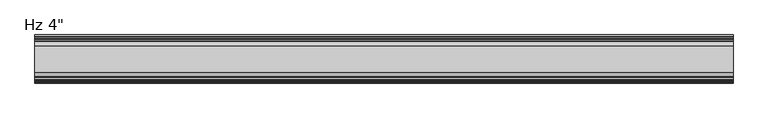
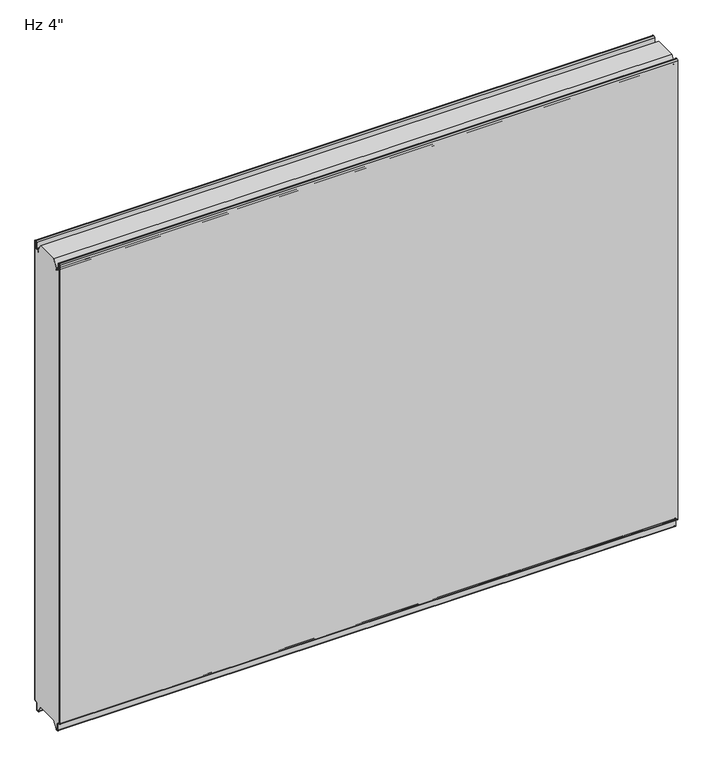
"""IFC4 building model written with IfcOpenShell, lengths in millimetres: plate geometry."""

from ifc_helpers import new_model, si_unit, frame, origin, place, context, project, spatial, polyline, circle_curve, source, transform, mapped, element, save
from ifc_brep_helpers import plane_surface, cylinder_surface, revolved_surface, advanced_brep


def plate_175a63a8(model_context):
    return source(origin(), model_context, "Body", "AdvancedBrep", [
        advanced_brep(
        [(-730.0, -98.6227194, 3.8499499), (-730.0, -100.5999935, 5.8272239), (-730.0, -100.6, 1150.8100652), (-730.0, -98.6227315, 1152.7873337), (-730.0, -97.5806329, 1152.7873337), (-730.0, -95.6033643, 1150.8100652), (-730.0, -95.6033643, 1136.6216802), (-730.0, -93.0154878, 1134.0338036), (-730.0, -88.6950697, 1134.0338036), (-730.0, -88.1060762, 1133.4253365), (-730.0, -88.1060762, 1131.0482432), (-730.0, -87.1066023, 1131.0482432), (-730.0, -87.1066023, 1136.4905123), (-730.0, -77.8490865, 1152.525), (-730.0, -23.7509179, 1152.525), (-730.0, -14.4933977, 1136.4905123), (-730.0, -14.4933977, 1131.0482432), (-730.0, -13.4939238, 1131.0482432), (-730.0, -13.4939238, 1133.4253365), (-730.0, -12.9049303, 1134.0338036), (-730.0, -8.5845122, 1134.0338036), (-730.0, -5.9966357, 1136.6216802), (-730.0, -5.9966357, 1150.8100652), (-730.0, -4.0193671, 1152.7873337), (-730.0, -2.9772685, 1152.7873337), (-730.0, -1.0, 1150.8100652), (-730.0, -1.0, 5.8272239), (-730.0, -2.9772806, 3.8499499), (-730.0, -5.2691705, 3.8499499), (-730.0, -9.2464377, -0.1273173), (-730.0, -9.2464377, -15.7237417), (-730.0, -9.8343146, -16.3116186), (-730.0, -12.9058635, -16.3116186), (-730.0, -13.4937402, -15.723742), (-730.0, -13.4937402, -13.3687064), (-730.0, -14.4937402, -13.3687064), (-730.0, -14.4937402, -15.6582851), (-730.0, -23.7509135, 0.0), (-730.0, -77.8490865, 0.0), (-730.0, -87.1062598, -15.6582851), (-730.0, -87.1062598, -13.3687064), (-730.0, -88.1062598, -13.3687064), (-730.0, -88.1062598, -15.723742), (-730.0, -88.6941365, -16.3116186), (-730.0, -91.7656854, -16.3116186), (-730.0, -92.3535623, -15.7237417), (-730.0, -92.3535623, -0.1273173), (-730.0, -96.3308295, 3.8499499), (730.0, -98.6227194, 3.8499499), (730.0, -96.3308295, 3.8499499), (730.0, -92.3535623, -0.1273173), (730.0, -92.3535623, -15.7237417), (730.0, -91.7656854, -16.3116186), (730.0, -88.6941365, -16.3116186), (730.0, -88.1062598, -15.723742), (730.0, -88.1062598, -13.3687064), (730.0, -87.1062598, -13.3687064), (730.0, -87.1062598, -15.6582851), (730.0, -77.8490865, 0.0), (730.0, -23.7509179, 0.0), (730.0, -14.4937402, -15.6582851), (730.0, -14.4937402, -13.3687064), (730.0, -13.4937402, -13.3687064), (730.0, -13.4937402, -15.723742), (730.0, -12.9058635, -16.3116186), (730.0, -9.8343146, -16.3116186), (730.0, -9.2464377, -15.7237417), (730.0, -9.2464377, -0.1273173), (730.0, -5.2691705, 3.8499499), (730.0, -2.9772806, 3.8499499), (730.0, -1.0000065, 5.8272239), (730.0, -1.0, 1150.8100652), (730.0, -2.9772685, 1152.7873337), (730.0, -4.0193671, 1152.7873337), (730.0, -5.9966357, 1150.8100652), (730.0, -5.9966357, 1136.6216802), (730.0, -8.5845122, 1134.0338036), (730.0, -12.9049303, 1134.0338036), (730.0, -13.4939238, 1133.4253365), (730.0, -13.4939238, 1131.0482432), (730.0, -14.4933977, 1131.0482432), (730.0, -14.4933977, 1136.4905123), (730.0, -23.7509135, 1152.525), (730.0, -77.8490865, 1152.525), (730.0, -87.1066023, 1136.4905123), (730.0, -87.1066023, 1131.0482432), (730.0, -88.1060762, 1131.0482432), (730.0, -88.1060762, 1133.4253365), (730.0, -88.6950697, 1134.0338036), (730.0, -93.0154878, 1134.0338036), (730.0, -95.6033643, 1136.6216802), (730.0, -95.6033643, 1150.8100652), (730.0, -97.5806329, 1152.7873337), (730.0, -98.6227315, 1152.7873337), (730.0, -100.6, 1150.8100652), (730.0, -100.6, 5.8272239)],
        [
            (0, 1, circle_curve(frame((-730.0, -98.6227194, 5.8272239), z_axis=(-1.0, 0.0, 0.0), x_axis=(0.0, 0.0, -1.0)), 1.977274)),
            (1, 2),
            (2, 3, circle_curve(frame((-730.0, -98.6227315, 1150.8100652), z_axis=(-1.0, 0.0, 0.0), x_axis=(0.0, 0.0, -1.0)), 1.9772685)),
            (3, 4),
            (4, 5, circle_curve(frame((-730.0, -97.5806329, 1150.8100652), z_axis=(-1.0, 0.0, 0.0), x_axis=(0.0, 0.0, -1.0)), 1.9772685)),
            (5, 6),
            (6, 7, circle_curve(frame((-730.0, -93.0154878, 1136.6216802), z_axis=(1.0, 0.0, 0.0), x_axis=(0.0, 0.0, -1.0)), 2.5878765)),
            (7, 8),
            (8, 9, circle_curve(frame((-730.0, -88.6950697, 1133.4444985), z_axis=(-1.0, 0.0, 0.0), x_axis=(0.0, 0.0, -1.0)), 0.5893051)),
            (9, 10),
            (10, 11),
            (11, 12),
            (12, 13),
            (13, 14),
            (14, 15),
            (15, 16),
            (16, 17),
            (17, 18),
            (18, 19, circle_curve(frame((-730.0, -12.9049303, 1133.4444985), z_axis=(-1.0, 0.0, 0.0), x_axis=(0.0, 1.0, 0.0)), 0.5893051)),
            (19, 20),
            (20, 21, circle_curve(frame((-730.0, -8.5845122, 1136.6216802), z_axis=(1.0, 0.0, 0.0), x_axis=(0.0, 1.0, 0.0)), 2.5878765)),
            (21, 22),
            (22, 23, circle_curve(frame((-730.0, -4.0193671, 1150.8100652), z_axis=(-1.0, 0.0, 0.0), x_axis=(0.0, 1.0, 0.0)), 1.9772685)),
            (23, 24),
            (24, 25, circle_curve(frame((-730.0, -2.9772685, 1150.8100652), z_axis=(-1.0, 0.0, 0.0), x_axis=(0.0, 1.0, 0.0)), 1.9772685)),
            (25, 26),
            (26, 27, circle_curve(frame((-730.0, -2.9772806, 5.8272239), z_axis=(-1.0, 0.0, 0.0), x_axis=(0.0, 1.0, 0.0)), 1.977274)),
            (27, 28),
            (28, 29, circle_curve(frame((-730.0, -5.2691705, -0.1273173), z_axis=(1.0, 0.0, 0.0), x_axis=(0.0, 1.0, 0.0)), 3.9772671)),
            (29, 30),
            (30, 31, circle_curve(frame((-730.0, -9.8343146, -15.7237417), z_axis=(-1.0, 0.0, 0.0), x_axis=(0.0, 1.0, 0.0)), 0.5878769)),
            (31, 32),
            (32, 33, circle_curve(frame((-730.0, -12.9058635, -15.723742), z_axis=(-1.0, 0.0, 0.0), x_axis=(0.0, 1.0, 0.0)), 0.5878766)),
            (33, 34),
            (34, 35),
            (35, 36),
            (36, 37),
            (37, 38),
            (38, 39),
            (39, 40),
            (40, 41),
            (41, 42),
            (42, 43, circle_curve(frame((-730.0, -88.6941365, -15.723742), z_axis=(-1.0, 0.0, 0.0), x_axis=(0.0, 0.0, -1.0)), 0.5878766)),
            (43, 44),
            (44, 45, circle_curve(frame((-730.0, -91.7656854, -15.7237417), z_axis=(-1.0, 0.0, 0.0), x_axis=(0.0, 0.0, -1.0)), 0.5878769)),
            (45, 46),
            (46, 47, circle_curve(frame((-730.0, -96.3308295, -0.1273173), z_axis=(1.0, 0.0, 0.0), x_axis=(0.0, 0.0, -1.0)), 3.9772671)),
            (47, 0),
            (48, 49),
            (49, 50, circle_curve(frame((730.0, -96.3308295, -0.1273173), z_axis=(-1.0, 0.0, 0.0), x_axis=(0.0, 0.0, -1.0)), 3.9772671)),
            (50, 51),
            (51, 52, circle_curve(frame((730.0, -91.7656854, -15.7237417), z_axis=(1.0, 0.0, 0.0), x_axis=(0.0, 0.0, -1.0)), 0.5878769)),
            (52, 53),
            (53, 54, circle_curve(frame((730.0, -88.6941365, -15.723742), z_axis=(1.0, 0.0, 0.0), x_axis=(0.0, 0.0, -1.0)), 0.5878766)),
            (54, 55),
            (55, 56),
            (56, 57),
            (57, 58),
            (58, 59),
            (59, 60),
            (60, 61),
            (61, 62),
            (62, 63),
            (63, 64, circle_curve(frame((730.0, -12.9058635, -15.723742), z_axis=(1.0, 0.0, 0.0), x_axis=(0.0, 1.0, 0.0)), 0.5878766)),
            (64, 65),
            (65, 66, circle_curve(frame((730.0, -9.8343146, -15.7237417), z_axis=(1.0, 0.0, 0.0), x_axis=(0.0, 1.0, 0.0)), 0.5878769)),
            (66, 67),
            (67, 68, circle_curve(frame((730.0, -5.2691705, -0.1273173), z_axis=(-1.0, 0.0, 0.0), x_axis=(0.0, 1.0, 0.0)), 3.9772671)),
            (68, 69),
            (69, 70, circle_curve(frame((730.0, -2.9772806, 5.8272239), z_axis=(1.0, 0.0, 0.0), x_axis=(0.0, 1.0, 0.0)), 1.977274)),
            (70, 71),
            (71, 72, circle_curve(frame((730.0, -2.9772685, 1150.8100652), z_axis=(1.0, 0.0, 0.0), x_axis=(0.0, 1.0, 0.0)), 1.9772685)),
            (72, 73),
            (73, 74, circle_curve(frame((730.0, -4.0193671, 1150.8100652), z_axis=(1.0, 0.0, 0.0), x_axis=(0.0, 1.0, 0.0)), 1.9772685)),
            (74, 75),
            (75, 76, circle_curve(frame((730.0, -8.5845122, 1136.6216802), z_axis=(-1.0, 0.0, 0.0), x_axis=(0.0, 1.0, 0.0)), 2.5878765)),
            (76, 77),
            (77, 78, circle_curve(frame((730.0, -12.9049303, 1133.4444985), z_axis=(1.0, 0.0, 0.0), x_axis=(0.0, 1.0, 0.0)), 0.5893051)),
            (78, 79),
            (79, 80),
            (80, 81),
            (81, 82),
            (82, 83),
            (83, 84),
            (84, 85),
            (85, 86),
            (86, 87),
            (87, 88, circle_curve(frame((730.0, -88.6950697, 1133.4444985), z_axis=(1.0, 0.0, 0.0), x_axis=(0.0, 0.0, -1.0)), 0.5893051)),
            (88, 89),
            (89, 90, circle_curve(frame((730.0, -93.0154878, 1136.6216802), z_axis=(-1.0, 0.0, 0.0), x_axis=(0.0, 0.0, -1.0)), 2.5878765)),
            (90, 91),
            (91, 92, circle_curve(frame((730.0, -97.5806329, 1150.8100652), z_axis=(1.0, 0.0, 0.0), x_axis=(0.0, 0.0, -1.0)), 1.9772685)),
            (92, 93),
            (93, 94, circle_curve(frame((730.0, -98.6227315, 1150.8100652), z_axis=(1.0, 0.0, 0.0), x_axis=(0.0, 0.0, -1.0)), 1.9772685)),
            (94, 95),
            (95, 48, circle_curve(frame((730.0, -98.6227194, 5.8272239), z_axis=(1.0, 0.0, 0.0), x_axis=(0.0, 0.0, -1.0)), 1.977274)),
            (13, 83),
            (82, 14),
            (58, 38),
            (37, 59),
            (47, 49),
            (48, 0),
            (46, 50),
            (45, 51),
            (44, 52),
            (43, 53),
            (42, 54),
            (41, 55),
            (40, 56),
            (39, 57),
            (12, 84),
            (11, 85),
            (10, 86),
            (9, 87),
            (8, 88),
            (7, 89),
            (6, 90),
            (5, 91),
            (4, 92),
            (3, 93),
            (2, 94),
            (1, 95),
            (26, 70),
            (69, 27),
            (25, 71),
            (24, 72),
            (23, 73),
            (22, 74),
            (21, 75),
            (20, 76),
            (19, 77),
            (18, 78),
            (17, 79),
            (16, 80),
            (15, 81),
            (36, 60),
            (35, 61),
            (34, 62),
            (33, 63),
            (32, 64),
            (31, 65),
            (30, 66),
            (29, 67),
            (28, 68),
        ],
        [
            plane_surface(frame((-730.0, -100.6, 576.2625), z_axis=(-1.0, 0.0, 0.0), x_axis=(0.0, -1.0, 0.0))),
            plane_surface(frame((730.0, -100.6, 576.2625), z_axis=(1.0, 0.0, 0.0), x_axis=(0.0, -1.0, 0.0))),
            plane_surface(frame((-730.0, -77.8490865, 1152.525), z_axis=(0.0, 0.0, 1.0), x_axis=(-1.0, 0.0, 0.0))),
            plane_surface(frame((-730.0, -77.8490865, 0.0), z_axis=(0.0, 0.0, -1.0), x_axis=(1.0, 0.0, 0.0))),
            plane_surface(frame((-730.0, -98.6227194, 3.8499499), z_axis=(0.0, 0.0, -1.0), x_axis=(1.0, 0.0, 0.0))),
            revolved_surface(polyline([(730.0, -96.3308295, -4.1045844), (-730.0, -96.3308295, -4.1045844)]), (-730.0, -96.3308295, -0.1273173), (1.0, 0.0, 0.0)),
            plane_surface(frame((-730.0, -92.3535623, -0.1273173), z_axis=(0.0, -1.0, 0.0), x_axis=(1.0, 0.0, 0.0))),
            cylinder_surface(frame((-730.0, -91.7656854, -15.7237417), z_axis=(-1.0, 0.0, 0.0), x_axis=(0.0, 0.0, -1.0)), 0.5878769),
            plane_surface(frame((-730.0, -91.7656854, -16.3116186), z_axis=(0.0, 0.0, -1.0), x_axis=(1.0, 0.0, 0.0))),
            cylinder_surface(frame((-730.0, -88.6941365, -15.723742), z_axis=(-1.0, 0.0, 0.0), x_axis=(0.0, 0.0, -1.0)), 0.5878766),
            plane_surface(frame((-730.0, -88.1062598, -15.723742), z_axis=(0.0, 1.0, 0.0), x_axis=(1.0, 0.0, 0.0))),
            plane_surface(frame((-730.0, -88.1062598, -13.3687064), z_axis=(0.0, 0.0, -1.0), x_axis=(1.0, 0.0, 0.0))),
            plane_surface(frame((-730.0, -87.1062598, -13.3687064), z_axis=(0.0, -1.0, 0.0), x_axis=(1.0, 0.0, 0.0))),
            plane_surface(frame((-730.0, -87.1062598, -15.6582851), z_axis=(0.0, 0.8608169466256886, -0.5089147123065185), x_axis=(1.0, 0.0, 0.0))),
            plane_surface(frame((-730.0, -77.8490865, 1152.525), z_axis=(0.0, -0.8660254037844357, 0.5000000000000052), x_axis=(1.0, 0.0, 0.0))),
            plane_surface(frame((-730.0, -87.1066023, 1136.4905123), z_axis=(0.0, -1.0, 0.0), x_axis=(1.0, 0.0, 0.0))),
            plane_surface(frame((-730.0, -87.1066023, 1131.0482432), z_axis=(0.0, 0.0, 1.0), x_axis=(1.0, 0.0, 0.0))),
            plane_surface(frame((-730.0, -88.1060762, 1131.0482432), z_axis=(0.0, 1.0, 0.0), x_axis=(1.0, 0.0, 0.0))),
            cylinder_surface(frame((-730.0, -88.6950697, 1133.4444985), z_axis=(-1.0, 0.0, 0.0), x_axis=(0.0, 0.0, -1.0)), 0.5893051),
            plane_surface(frame((-730.0, -88.6950697, 1134.0338036), z_axis=(0.0, 0.0, 1.0), x_axis=(1.0, 0.0, 0.0))),
            revolved_surface(polyline([(730.0, -93.0154878, 1134.0338037), (-730.0, -93.0154878, 1134.0338037)]), (-730.0, -93.0154878, 1136.6216802), (1.0, 0.0, 0.0)),
            plane_surface(frame((-730.0, -95.6033643, 1136.6216802), z_axis=(0.0, 1.0, 0.0), x_axis=(1.0, 0.0, 0.0))),
            cylinder_surface(frame((-730.0, -97.5806329, 1150.8100652), z_axis=(-1.0, 0.0, 0.0), x_axis=(0.0, 0.0, -1.0)), 1.9772685),
            plane_surface(frame((-730.0, -97.5806329, 1152.7873337), z_axis=(0.0, 0.0, 1.0), x_axis=(1.0, 0.0, 0.0))),
            cylinder_surface(frame((-730.0, -98.6227315, 1150.8100652), z_axis=(-1.0, 0.0, 0.0), x_axis=(0.0, 0.0, -1.0)), 1.9772685),
            plane_surface(frame((-730.0, -100.6, 1150.8100652), z_axis=(0.0, -1.0, 0.0), x_axis=(1.0, 0.0, 0.0))),
            cylinder_surface(frame((-730.0, -98.6227194, 5.8272239), z_axis=(-1.0, 0.0, 0.0), x_axis=(0.0, 0.0, -1.0)), 1.977274),
            cylinder_surface(frame((-730.0, -2.9772806, 5.8272239), z_axis=(-1.0, 0.0, 0.0), x_axis=(0.0, 1.0, 0.0)), 1.977274),
            plane_surface(frame((-730.0, -1.0, 5.8272239), z_axis=(0.0, 1.0, 0.0), x_axis=(1.0, 0.0, 0.0))),
            cylinder_surface(frame((-730.0, -2.9772685, 1150.8100652), z_axis=(-1.0, 0.0, 0.0), x_axis=(0.0, 1.0, 0.0)), 1.9772685),
            plane_surface(frame((-730.0, -2.9772685, 1152.7873337), z_axis=(0.0, 0.0, 1.0), x_axis=(1.0, 0.0, 0.0))),
            cylinder_surface(frame((-730.0, -4.0193671, 1150.8100652), z_axis=(-1.0, 0.0, 0.0), x_axis=(0.0, 1.0, 0.0)), 1.9772685),
            plane_surface(frame((-730.0, -5.9966357, 1150.8100652), z_axis=(0.0, -1.0, 0.0), x_axis=(1.0, 0.0, 0.0))),
            revolved_surface(polyline([(730.0, -5.996635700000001, 1136.6216802), (-730.0, -5.996635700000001, 1136.6216802)]), (-730.0, -8.5845122, 1136.6216802), (1.0, 0.0, 0.0)),
            plane_surface(frame((-730.0, -8.5845122, 1134.0338036), z_axis=(0.0, 0.0, 1.0), x_axis=(1.0, 0.0, 0.0))),
            cylinder_surface(frame((-730.0, -12.9049303, 1133.4444985), z_axis=(-1.0, 0.0, 0.0), x_axis=(0.0, 1.0, 0.0)), 0.5893051),
            plane_surface(frame((-730.0, -13.4939238, 1133.4253365), z_axis=(0.0, -1.0, 0.0), x_axis=(1.0, 0.0, 0.0))),
            plane_surface(frame((-730.0, -13.4939238, 1131.0482432), z_axis=(0.0, 0.0, 1.0), x_axis=(1.0, 0.0, 0.0))),
            plane_surface(frame((-730.0, -14.4933977, 1131.0482432), z_axis=(0.0, 1.0, 0.0), x_axis=(1.0, 0.0, 0.0))),
            plane_surface(frame((-730.0, -14.4933977, 1136.4905123), z_axis=(0.0, 0.8660254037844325, 0.5000000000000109), x_axis=(1.0, 0.0, 0.0))),
            plane_surface(frame((-730.0, -23.7509135, 0.0), z_axis=(0.0, -0.8608169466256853, -0.5089147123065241), x_axis=(1.0, 0.0, 0.0))),
            plane_surface(frame((-730.0, -14.4937402, -15.6582851), z_axis=(0.0, 1.0, 0.0), x_axis=(1.0, 0.0, 0.0))),
            plane_surface(frame((-730.0, -14.4937402, -13.3687064), z_axis=(0.0, 0.0, -1.0), x_axis=(1.0, 0.0, 0.0))),
            plane_surface(frame((-730.0, -13.4937402, -13.3687064), z_axis=(0.0, -1.0, 0.0), x_axis=(1.0, 0.0, 0.0))),
            cylinder_surface(frame((-730.0, -12.9058635, -15.723742), z_axis=(-1.0, 0.0, 0.0), x_axis=(0.0, 1.0, 0.0)), 0.5878766),
            plane_surface(frame((-730.0, -12.9058635, -16.3116186), z_axis=(0.0, 0.0, -1.0), x_axis=(1.0, 0.0, 0.0))),
            cylinder_surface(frame((-730.0, -9.8343146, -15.7237417), z_axis=(-1.0, 0.0, 0.0), x_axis=(0.0, 1.0, 0.0)), 0.5878769),
            plane_surface(frame((-730.0, -9.2464377, -15.7237417), z_axis=(0.0, 1.0, 0.0), x_axis=(1.0, 0.0, 0.0))),
            revolved_surface(polyline([(730.0, -1.2919034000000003, -0.1273173), (-730.0, -1.2919034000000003, -0.1273173)]), (-730.0, -5.2691705, -0.1273173), (1.0, 0.0, 0.0)),
            plane_surface(frame((-730.0, -5.2691705, 3.8499499), z_axis=(0.0, 0.0, -1.0), x_axis=(1.0, 0.0, 0.0))),
        ],
        [
            (0, [[1, 2, 3, 4, 5, 6, 7, 8, 9, 10, 11, 12, 13, 14, 15, 16, 17, 18, 19, 20, 21, 22, 23, 24, 25, 26, 27, 28, 29, 30, 31, 32, 33, 34, 35, 36, 37, 38, 39, 40, 41, 42, 43, 44, 45, 46, 47, 48]]),
            (1, [[49, 50, 51, 52, 53, 54, 55, 56, 57, 58, 59, 60, 61, 62, 63, 64, 65, 66, 67, 68, 69, 70, 71, 72, 73, 74, 75, 76, 77, 78, 79, 80, 81, 82, 83, 84, 85, 86, 87, 88, 89, 90, 91, 92, 93, 94, 95, 96]]),
            (2, [[97, -83, 98, -14]]),
            (3, [[99, -38, 100, -59]]),
            (4, [[101, -49, 102, -48]]),
            (5, [[103, -50, -101, -47]]),
            (6, [[104, -51, -103, -46]]),
            (7, [[105, -52, -104, -45]]),
            (8, [[106, -53, -105, -44]]),
            (9, [[107, -54, -106, -43]]),
            (10, [[108, -55, -107, -42]]),
            (11, [[109, -56, -108, -41]]),
            (12, [[110, -57, -109, -40]]),
            (13, [[-99, -58, -110, -39]]),
            (14, [[111, -84, -97, -13]]),
            (15, [[112, -85, -111, -12]]),
            (16, [[113, -86, -112, -11]]),
            (17, [[114, -87, -113, -10]]),
            (18, [[115, -88, -114, -9]]),
            (19, [[116, -89, -115, -8]]),
            (20, [[117, -90, -116, -7]]),
            (21, [[118, -91, -117, -6]]),
            (22, [[119, -92, -118, -5]]),
            (23, [[120, -93, -119, -4]]),
            (24, [[121, -94, -120, -3]]),
            (25, [[122, -95, -121, -2]]),
            (26, [[-102, -96, -122, -1]]),
            (27, [[123, -70, 124, -27]]),
            (28, [[125, -71, -123, -26]]),
            (29, [[126, -72, -125, -25]]),
            (30, [[127, -73, -126, -24]]),
            (31, [[128, -74, -127, -23]]),
            (32, [[129, -75, -128, -22]]),
            (33, [[130, -76, -129, -21]]),
            (34, [[131, -77, -130, -20]]),
            (35, [[132, -78, -131, -19]]),
            (36, [[133, -79, -132, -18]]),
            (37, [[134, -80, -133, -17]]),
            (38, [[135, -81, -134, -16]]),
            (39, [[-98, -82, -135, -15]]),
            (40, [[136, -60, -100, -37]]),
            (41, [[137, -61, -136, -36]]),
            (42, [[138, -62, -137, -35]]),
            (43, [[139, -63, -138, -34]]),
            (44, [[140, -64, -139, -33]]),
            (45, [[141, -65, -140, -32]]),
            (46, [[142, -66, -141, -31]]),
            (47, [[143, -67, -142, -30]]),
            (48, [[144, -68, -143, -29]]),
            (49, [[-124, -69, -144, -28]]),
        ],
    ),
        advanced_brep(
        [(-730.0, -2.9776189, 3.8501063), (-730.0, -1.0007088, 5.8270163), (-730.0, -1.0007088, 1150.812837), (-730.0, -2.97659, 1152.7887182), (-730.0, -4.019022, 1152.7887182), (-730.0, -5.9969834, 1150.8107568), (-730.0, -5.9969834, 1136.6215971), (-730.0, -8.5846834, 1134.0338971), (-730.0, -12.9049158, 1134.0338971), (-730.0, -13.4939528, 1133.4253599), (-730.0, -13.4939528, 1131.0482432), (-730.0, -14.4933977, 1131.0482432), (-730.0, -14.4933977, 1133.3929042), (-730.0, -12.9049303, 1135.0338036), (-730.0, -8.5845122, 1135.0338036), (-730.0, -6.9966356, 1136.6216801), (-730.0, -6.9966356, 1150.8100652), (-730.0, -4.0193671, 1153.7873337), (-730.0, -2.9772685, 1153.7873337), (-730.0, 0.0, 1150.8100652), (-730.0, 0.0, 5.8272211), (-730.0, -2.977286, 2.8499526), (-730.0, -5.2691698, 2.8499526), (-730.0, -8.2464384, -0.1273159), (-730.0, -8.2464384, -15.7237419), (-730.0, -9.8343149, -17.3116185), (-730.0, -12.9058636, -17.3116185), (-730.0, -14.4937401, -15.7237419), (-730.0, -14.4937401, -13.3687064), (-730.0, -13.4937365, -13.3687064), (-730.0, -13.4937365, -15.7237374), (-730.0, -12.9058654, -16.3116086), (-730.0, -9.834334, -16.3116086), (-730.0, -9.2464768, -15.7237514), (-730.0, -9.2464768, -0.1272391), (-730.0, -5.2691315, 3.8501063), (730.0, -2.9776189, 3.8501063), (730.0, -5.2691315, 3.8501063), (730.0, -9.2464768, -0.1272391), (730.0, -9.2464768, -15.7237514), (730.0, -9.834334, -16.3116086), (730.0, -12.9058654, -16.3116086), (730.0, -13.4937365, -15.7237374), (730.0, -13.4937365, -13.3687064), (730.0, -14.4937401, -13.3687064), (730.0, -14.4937401, -15.7237419), (730.0, -12.9058636, -17.3116185), (730.0, -9.8343149, -17.3116185), (730.0, -8.2464384, -15.7237419), (730.0, -8.2464384, -0.1273159), (730.0, -5.2691698, 2.8499526), (730.0, -2.977286, 2.8499526), (730.0, -1.75e-05, 5.8272211), (730.0, 0.0, 1150.8100652), (730.0, -2.9772685, 1153.7873337), (730.0, -4.0193671, 1153.7873337), (730.0, -6.9966356, 1150.8100652), (730.0, -6.9966356, 1136.6216801), (730.0, -8.5845122, 1135.0338036), (730.0, -12.9049303, 1135.0338036), (730.0, -14.4933977, 1133.3929042), (730.0, -14.4933977, 1131.0482432), (730.0, -13.4939528, 1131.0482432), (730.0, -13.4939528, 1133.4253599), (730.0, -12.9049158, 1134.0338971), (730.0, -8.5846834, 1134.0338971), (730.0, -5.9969834, 1136.6215971), (730.0, -5.9969834, 1150.8107568), (730.0, -4.019022, 1152.7887182), (730.0, -2.97659, 1152.7887182), (730.0, -1.0007088, 1150.812837), (730.0, -1.0007088, 5.8270163)],
        [
            (0, 1, circle_curve(frame((-730.0, -2.9776189, 5.8270163), z_axis=(1.0, 0.0, 0.0), x_axis=(0.0, 1.0, 0.0)), 1.9769101)),
            (1, 2),
            (2, 3, circle_curve(frame((-730.0, -2.97659, 1150.812837), z_axis=(1.0, 0.0, 0.0), x_axis=(0.0, 1.0, 0.0)), 1.9758812)),
            (3, 4),
            (4, 5, circle_curve(frame((-730.0, -4.019022, 1150.8107568), z_axis=(1.0, 0.0, 0.0), x_axis=(0.0, 1.0, 0.0)), 1.9779614)),
            (5, 6),
            (6, 7, circle_curve(frame((-730.0, -8.5846834, 1136.6215971), z_axis=(-1.0, 0.0, 0.0), x_axis=(0.0, 1.0, 0.0)), 2.5877)),
            (7, 8),
            (8, 9, circle_curve(frame((-730.0, -12.9049158, 1133.4445477), z_axis=(1.0, 0.0, 0.0), x_axis=(0.0, 1.0, 0.0)), 0.5893495)),
            (9, 10),
            (10, 11),
            (11, 12),
            (12, 13, circle_curve(frame((-730.0, -12.9049303, 1133.4444985), z_axis=(-1.0, 0.0, 0.0), x_axis=(0.0, 1.0, 0.0)), 1.5893051)),
            (13, 14),
            (14, 15, circle_curve(frame((-730.0, -8.5845122, 1136.6216801), z_axis=(1.0, 0.0, 0.0), x_axis=(0.0, 1.0, 0.0)), 1.5878765)),
            (15, 16),
            (16, 17, circle_curve(frame((-730.0, -4.0193671, 1150.8100652), z_axis=(-1.0, 0.0, 0.0), x_axis=(0.0, 1.0, 0.0)), 2.9772685)),
            (17, 18),
            (18, 19, circle_curve(frame((-730.0, -2.9772685, 1150.8100652), z_axis=(-1.0, 0.0, 0.0), x_axis=(0.0, 1.0, 0.0)), 2.9772685)),
            (19, 20),
            (20, 21, circle_curve(frame((-730.0, -2.977286, 5.8272211), z_axis=(-1.0, 0.0, 0.0), x_axis=(0.0, 1.0, 0.0)), 2.9772685)),
            (21, 22),
            (22, 23, circle_curve(frame((-730.0, -5.2691698, -0.1273159), z_axis=(1.0, 0.0, 0.0), x_axis=(0.0, 1.0, 0.0)), 2.9772685)),
            (23, 24),
            (24, 25, circle_curve(frame((-730.0, -9.8343149, -15.7237419), z_axis=(-1.0, 0.0, 0.0), x_axis=(0.0, 1.0, 0.0)), 1.5878765)),
            (25, 26),
            (26, 27, circle_curve(frame((-730.0, -12.9058636, -15.7237419), z_axis=(-1.0, 0.0, 0.0), x_axis=(0.0, 1.0, 0.0)), 1.5878765)),
            (27, 28),
            (28, 29),
            (29, 30),
            (30, 31, circle_curve(frame((-730.0, -12.9058654, -15.7237374), z_axis=(1.0, 0.0, 0.0), x_axis=(0.0, 1.0, 0.0)), 0.5878711)),
            (31, 32),
            (32, 33, circle_curve(frame((-730.0, -9.834334, -15.7237514), z_axis=(1.0, 0.0, 0.0), x_axis=(0.0, 1.0, 0.0)), 0.5878572)),
            (33, 34),
            (34, 35, circle_curve(frame((-730.0, -5.2691315, -0.1272391), z_axis=(-1.0, 0.0, 0.0), x_axis=(0.0, 1.0, 0.0)), 3.9773454)),
            (35, 0),
            (36, 37),
            (37, 38, circle_curve(frame((730.0, -5.2691315, -0.1272391), z_axis=(1.0, 0.0, 0.0), x_axis=(0.0, 1.0, 0.0)), 3.9773454)),
            (38, 39),
            (39, 40, circle_curve(frame((730.0, -9.834334, -15.7237514), z_axis=(-1.0, 0.0, 0.0), x_axis=(0.0, 1.0, 0.0)), 0.5878572)),
            (40, 41),
            (41, 42, circle_curve(frame((730.0, -12.9058654, -15.7237374), z_axis=(-1.0, 0.0, 0.0), x_axis=(0.0, 1.0, 0.0)), 0.5878711)),
            (42, 43),
            (43, 44),
            (44, 45),
            (45, 46, circle_curve(frame((730.0, -12.9058636, -15.7237419), z_axis=(1.0, 0.0, 0.0), x_axis=(0.0, 1.0, 0.0)), 1.5878765)),
            (46, 47),
            (47, 48, circle_curve(frame((730.0, -9.8343149, -15.7237419), z_axis=(1.0, 0.0, 0.0), x_axis=(0.0, 1.0, 0.0)), 1.5878765)),
            (48, 49),
            (49, 50, circle_curve(frame((730.0, -5.2691698, -0.1273159), z_axis=(-1.0, 0.0, 0.0), x_axis=(0.0, 1.0, 0.0)), 2.9772685)),
            (50, 51),
            (51, 52, circle_curve(frame((730.0, -2.977286, 5.8272211), z_axis=(1.0, 0.0, 0.0), x_axis=(0.0, 1.0, 0.0)), 2.9772685)),
            (52, 53),
            (53, 54, circle_curve(frame((730.0, -2.9772685, 1150.8100652), z_axis=(1.0, 0.0, 0.0), x_axis=(0.0, 1.0, 0.0)), 2.9772685)),
            (54, 55),
            (55, 56, circle_curve(frame((730.0, -4.0193671, 1150.8100652), z_axis=(1.0, 0.0, 0.0), x_axis=(0.0, 1.0, 0.0)), 2.9772685)),
            (56, 57),
            (57, 58, circle_curve(frame((730.0, -8.5845122, 1136.6216801), z_axis=(-1.0, 0.0, 0.0), x_axis=(0.0, 1.0, 0.0)), 1.5878765)),
            (58, 59),
            (59, 60, circle_curve(frame((730.0, -12.9049303, 1133.4444985), z_axis=(1.0, 0.0, 0.0), x_axis=(0.0, 1.0, 0.0)), 1.5893051)),
            (60, 61),
            (61, 62),
            (62, 63),
            (63, 64, circle_curve(frame((730.0, -12.9049158, 1133.4445477), z_axis=(-1.0, 0.0, 0.0), x_axis=(0.0, 1.0, 0.0)), 0.5893495)),
            (64, 65),
            (65, 66, circle_curve(frame((730.0, -8.5846834, 1136.6215971), z_axis=(1.0, 0.0, 0.0), x_axis=(0.0, 1.0, 0.0)), 2.5877)),
            (66, 67),
            (67, 68, circle_curve(frame((730.0, -4.019022, 1150.8107568), z_axis=(-1.0, 0.0, 0.0), x_axis=(0.0, 1.0, 0.0)), 1.9779614)),
            (68, 69),
            (69, 70, circle_curve(frame((730.0, -2.97659, 1150.812837), z_axis=(-1.0, 0.0, 0.0), x_axis=(0.0, 1.0, 0.0)), 1.9758812)),
            (70, 71),
            (71, 36, circle_curve(frame((730.0, -2.9776189, 5.8270163), z_axis=(-1.0, 0.0, 0.0), x_axis=(0.0, 1.0, 0.0)), 1.9769101)),
            (35, 37),
            (36, 0),
            (34, 38),
            (33, 39),
            (32, 40),
            (31, 41),
            (30, 42),
            (29, 43),
            (28, 44),
            (27, 45),
            (26, 46),
            (25, 47),
            (24, 48),
            (23, 49),
            (22, 50),
            (21, 51),
            (20, 52),
            (19, 53),
            (18, 54),
            (17, 55),
            (16, 56),
            (15, 57),
            (14, 58),
            (13, 59),
            (12, 60),
            (11, 61),
            (10, 62),
            (9, 63),
            (8, 64),
            (7, 65),
            (6, 66),
            (5, 67),
            (4, 68),
            (3, 69),
            (2, 70),
            (1, 71),
        ],
        [
            plane_surface(frame((-730.0, 0.0, 576.2625), z_axis=(-1.0, 0.0, 0.0), x_axis=(0.0, 1.0, 0.0))),
            plane_surface(frame((730.0, 0.0, 576.2625), z_axis=(1.0, 0.0, 0.0), x_axis=(0.0, 1.0, 0.0))),
            plane_surface(frame((-730.0, -2.9776189, 3.8501063), z_axis=(0.0, 0.0, 1.0), x_axis=(1.0, 0.0, 0.0))),
            cylinder_surface(frame((-730.0, -5.2691315, -0.1272391), z_axis=(-1.0, 0.0, 0.0), x_axis=(0.0, 1.0, 0.0)), 3.9773454),
            plane_surface(frame((-730.0, -9.2464768, -0.1272391), z_axis=(0.0, -1.0, 0.0), x_axis=(1.0, 0.0, 0.0))),
            revolved_surface(polyline([(730.0, -9.2464768, -15.7237514), (-730.0, -9.2464768, -15.7237514)]), (-730.0, -9.834334, -15.7237514), (1.0, 0.0, 0.0)),
            plane_surface(frame((-730.0, -9.834334, -16.3116086), z_axis=(0.0, 0.0, 1.0), x_axis=(1.0, 0.0, 0.0))),
            revolved_surface(polyline([(730.0, -12.3179943, -15.7237374), (-730.0, -12.3179943, -15.7237374)]), (-730.0, -12.9058654, -15.7237374), (1.0, 0.0, 0.0)),
            plane_surface(frame((-730.0, -13.4937365, -15.7237374), z_axis=(0.0, 1.0, 0.0), x_axis=(1.0, 0.0, 0.0))),
            plane_surface(frame((-730.0, -13.4937365, -13.3687064), z_axis=(0.0, 0.0, 1.0), x_axis=(1.0, 0.0, 0.0))),
            plane_surface(frame((-730.0, -14.4937401, -13.3687064), z_axis=(0.0, -1.0, 0.0), x_axis=(1.0, 0.0, 0.0))),
            cylinder_surface(frame((-730.0, -12.9058636, -15.7237419), z_axis=(-1.0, 0.0, 0.0), x_axis=(0.0, 1.0, 0.0)), 1.5878765),
            plane_surface(frame((-730.0, -12.9058636, -17.3116185), z_axis=(0.0, 0.0, -1.0), x_axis=(1.0, 0.0, 0.0))),
            cylinder_surface(frame((-730.0, -9.8343149, -15.7237419), z_axis=(-1.0, 0.0, 0.0), x_axis=(0.0, 1.0, 0.0)), 1.5878765),
            plane_surface(frame((-730.0, -8.2464384, -15.7237419), z_axis=(0.0, 1.0, 0.0), x_axis=(1.0, 0.0, 0.0))),
            revolved_surface(polyline([(730.0, -2.2919013, -0.1273159), (-730.0, -2.2919013, -0.1273159)]), (-730.0, -5.2691698, -0.1273159), (1.0, 0.0, 0.0)),
            plane_surface(frame((-730.0, -5.2691698, 2.8499526), z_axis=(0.0, 0.0, -1.0), x_axis=(1.0, 0.0, 0.0))),
            cylinder_surface(frame((-730.0, -2.977286, 5.8272211), z_axis=(-1.0, 0.0, 0.0), x_axis=(0.0, 1.0, 0.0)), 2.9772685),
            plane_surface(frame((-730.0, 0.0, 5.8272211), z_axis=(0.0, 1.0, 0.0), x_axis=(1.0, 0.0, 0.0))),
            cylinder_surface(frame((-730.0, -2.9772685, 1150.8100652), z_axis=(-1.0, 0.0, 0.0), x_axis=(0.0, 1.0, 0.0)), 2.9772685),
            plane_surface(frame((-730.0, -2.9772685, 1153.7873337), z_axis=(0.0, 0.0, 1.0), x_axis=(1.0, 0.0, 0.0))),
            cylinder_surface(frame((-730.0, -4.0193671, 1150.8100652), z_axis=(-1.0, 0.0, 0.0), x_axis=(0.0, 1.0, 0.0)), 2.9772685),
            plane_surface(frame((-730.0, -6.9966356, 1150.8100652), z_axis=(0.0, -1.0, 0.0), x_axis=(1.0, 0.0, 0.0))),
            revolved_surface(polyline([(730.0, -6.996635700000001, 1136.6216801), (-730.0, -6.996635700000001, 1136.6216801)]), (-730.0, -8.5845122, 1136.6216801), (1.0, 0.0, 0.0)),
            plane_surface(frame((-730.0, -8.5845122, 1135.0338036), z_axis=(0.0, 0.0, 1.0), x_axis=(1.0, 0.0, 0.0))),
            cylinder_surface(frame((-730.0, -12.9049303, 1133.4444985), z_axis=(-1.0, 0.0, 0.0), x_axis=(0.0, 1.0, 0.0)), 1.5893051),
            plane_surface(frame((-730.0, -14.4933977, 1133.3929042), z_axis=(0.0, -1.0, 0.0), x_axis=(1.0, 0.0, 0.0))),
            plane_surface(frame((-730.0, -14.4933977, 1131.0482432), z_axis=(0.0, 0.0, -1.0), x_axis=(1.0, 0.0, 0.0))),
            plane_surface(frame((-730.0, -13.4939528, 1131.0482432), z_axis=(0.0, 1.0, 0.0), x_axis=(1.0, 0.0, 0.0))),
            revolved_surface(polyline([(730.0, -12.3155663, 1133.4445477), (-730.0, -12.3155663, 1133.4445477)]), (-730.0, -12.9049158, 1133.4445477), (1.0, 0.0, 0.0)),
            plane_surface(frame((-730.0, -12.9049158, 1134.0338971), z_axis=(0.0, 0.0, -1.0), x_axis=(1.0, 0.0, 0.0))),
            cylinder_surface(frame((-730.0, -8.5846834, 1136.6215971), z_axis=(-1.0, 0.0, 0.0), x_axis=(0.0, 1.0, 0.0)), 2.5877),
            plane_surface(frame((-730.0, -5.9969834, 1136.6215971), z_axis=(0.0, 1.0, 0.0), x_axis=(1.0, 0.0, 0.0))),
            revolved_surface(polyline([(730.0, -2.0410606, 1150.8107568), (-730.0, -2.0410606, 1150.8107568)]), (-730.0, -4.019022, 1150.8107568), (1.0, 0.0, 0.0)),
            plane_surface(frame((-730.0, -4.019022, 1152.7887182), z_axis=(0.0, 0.0, -1.0), x_axis=(1.0, 0.0, 0.0))),
            revolved_surface(polyline([(730.0, -1.0007088, 1150.812837), (-730.0, -1.0007088, 1150.812837)]), (-730.0, -2.97659, 1150.812837), (1.0, 0.0, 0.0)),
            plane_surface(frame((-730.0, -1.0007088, 1150.812837), z_axis=(0.0, -1.0, 0.0), x_axis=(1.0, 0.0, 0.0))),
            revolved_surface(polyline([(730.0, -1.0007088, 5.8270163), (-730.0, -1.0007088, 5.8270163)]), (-730.0, -2.9776189, 5.8270163), (1.0, 0.0, 0.0)),
        ],
        [
            (0, [[1, 2, 3, 4, 5, 6, 7, 8, 9, 10, 11, 12, 13, 14, 15, 16, 17, 18, 19, 20, 21, 22, 23, 24, 25, 26, 27, 28, 29, 30, 31, 32, 33, 34, 35, 36]]),
            (1, [[37, 38, 39, 40, 41, 42, 43, 44, 45, 46, 47, 48, 49, 50, 51, 52, 53, 54, 55, 56, 57, 58, 59, 60, 61, 62, 63, 64, 65, 66, 67, 68, 69, 70, 71, 72]]),
            (2, [[73, -37, 74, -36]]),
            (3, [[75, -38, -73, -35]]),
            (4, [[76, -39, -75, -34]]),
            (5, [[77, -40, -76, -33]]),
            (6, [[78, -41, -77, -32]]),
            (7, [[79, -42, -78, -31]]),
            (8, [[80, -43, -79, -30]]),
            (9, [[81, -44, -80, -29]]),
            (10, [[82, -45, -81, -28]]),
            (11, [[83, -46, -82, -27]]),
            (12, [[84, -47, -83, -26]]),
            (13, [[85, -48, -84, -25]]),
            (14, [[86, -49, -85, -24]]),
            (15, [[87, -50, -86, -23]]),
            (16, [[88, -51, -87, -22]]),
            (17, [[89, -52, -88, -21]]),
            (18, [[90, -53, -89, -20]]),
            (19, [[91, -54, -90, -19]]),
            (20, [[92, -55, -91, -18]]),
            (21, [[93, -56, -92, -17]]),
            (22, [[94, -57, -93, -16]]),
            (23, [[95, -58, -94, -15]]),
            (24, [[96, -59, -95, -14]]),
            (25, [[97, -60, -96, -13]]),
            (26, [[98, -61, -97, -12]]),
            (27, [[99, -62, -98, -11]]),
            (28, [[100, -63, -99, -10]]),
            (29, [[101, -64, -100, -9]]),
            (30, [[102, -65, -101, -8]]),
            (31, [[103, -66, -102, -7]]),
            (32, [[104, -67, -103, -6]]),
            (33, [[105, -68, -104, -5]]),
            (34, [[106, -69, -105, -4]]),
            (35, [[107, -70, -106, -3]]),
            (36, [[108, -71, -107, -2]]),
            (37, [[-74, -72, -108, -1]]),
        ],
    ),
        advanced_brep(
        [(-730.0, -98.6223811, 3.8501063), (-730.0, -96.3308685, 3.8501063), (-730.0, -92.3535232, -0.1272391), (-730.0, -92.3535232, -15.7237514), (-730.0, -91.765666, -16.3116086), (-730.0, -88.6941346, -16.3116086), (-730.0, -88.1062635, -15.7237374), (-730.0, -88.1062635, -13.3687064), (-730.0, -87.1062599, -13.3687064), (-730.0, -87.1062599, -15.7237419), (-730.0, -88.6941364, -17.3116185), (-730.0, -91.7656851, -17.3116185), (-730.0, -93.3535616, -15.7237419), (-730.0, -93.3535616, -0.1273159), (-730.0, -96.3308302, 2.8499526), (-730.0, -98.622714, 2.8499526), (-730.0, -101.5999825, 5.8272211), (-730.0, -101.6, 1150.8100652), (-730.0, -98.6227315, 1153.7873337), (-730.0, -97.5806329, 1153.7873337), (-730.0, -94.6033644, 1150.8100652), (-730.0, -94.6033644, 1136.6216801), (-730.0, -93.0154878, 1135.0338036), (-730.0, -88.6950697, 1135.0338036), (-730.0, -87.1066023, 1133.3929042), (-730.0, -87.1066023, 1131.0482432), (-730.0, -88.1060472, 1131.0482432), (-730.0, -88.1060472, 1133.4253599), (-730.0, -88.6950842, 1134.0338971), (-730.0, -93.0153166, 1134.0338971), (-730.0, -95.6030166, 1136.6215971), (-730.0, -95.6030166, 1150.8107568), (-730.0, -97.580978, 1152.7887182), (-730.0, -98.62341, 1152.7887182), (-730.0, -100.5992912, 1150.812837), (-730.0, -100.5992912, 5.8270163), (730.0, -98.6223811, 3.8501063), (730.0, -100.5992912, 5.8270163), (730.0, -100.5992912, 1150.812837), (730.0, -98.62341, 1152.7887182), (730.0, -97.580978, 1152.7887182), (730.0, -95.6030166, 1150.8107568), (730.0, -95.6030166, 1136.6215971), (730.0, -93.0153166, 1134.0338971), (730.0, -88.6950842, 1134.0338971), (730.0, -88.1060472, 1133.4253599), (730.0, -88.1060472, 1131.0482432), (730.0, -87.1066023, 1131.0482432), (730.0, -87.1066023, 1133.3929042), (730.0, -88.6950697, 1135.0338036), (730.0, -93.0154878, 1135.0338036), (730.0, -94.6033644, 1136.6216801), (730.0, -94.6033644, 1150.8100652), (730.0, -97.5806329, 1153.7873337), (730.0, -98.6227315, 1153.7873337), (730.0, -101.6, 1150.8100652), (730.0, -101.6, 5.8272211), (730.0, -98.622714, 2.8499526), (730.0, -96.3308302, 2.8499526), (730.0, -93.3535616, -0.1273159), (730.0, -93.3535616, -15.7237419), (730.0, -91.7656851, -17.3116185), (730.0, -88.6941364, -17.3116185), (730.0, -87.1062599, -15.7237419), (730.0, -87.1062599, -13.3687064), (730.0, -88.1062635, -13.3687064), (730.0, -88.1062635, -15.7237374), (730.0, -88.6941346, -16.3116086), (730.0, -91.765666, -16.3116086), (730.0, -92.3535232, -15.7237514), (730.0, -92.3535232, -0.1272391), (730.0, -96.3308685, 3.8501063)],
        [
            (0, 1),
            (1, 2, circle_curve(frame((-730.0, -96.3308685, -0.1272391), z_axis=(-1.0, 0.0, 0.0), x_axis=(0.0, 0.0, -1.0)), 3.9773454)),
            (2, 3),
            (3, 4, circle_curve(frame((-730.0, -91.765666, -15.7237514), z_axis=(1.0, 0.0, 0.0), x_axis=(0.0, 0.0, -1.0)), 0.5878572)),
            (4, 5),
            (5, 6, circle_curve(frame((-730.0, -88.6941346, -15.7237374), z_axis=(1.0, 0.0, 0.0), x_axis=(0.0, 0.0, -1.0)), 0.5878711)),
            (6, 7),
            (7, 8),
            (8, 9),
            (9, 10, circle_curve(frame((-730.0, -88.6941364, -15.7237419), z_axis=(-1.0, 0.0, 0.0), x_axis=(0.0, 0.0, -1.0)), 1.5878765)),
            (10, 11),
            (11, 12, circle_curve(frame((-730.0, -91.7656851, -15.7237419), z_axis=(-1.0, 0.0, 0.0), x_axis=(0.0, 0.0, -1.0)), 1.5878765)),
            (12, 13),
            (13, 14, circle_curve(frame((-730.0, -96.3308302, -0.1273159), z_axis=(1.0, 0.0, 0.0), x_axis=(0.0, 0.0, -1.0)), 2.9772685)),
            (14, 15),
            (15, 16, circle_curve(frame((-730.0, -98.622714, 5.8272211), z_axis=(-1.0, 0.0, 0.0), x_axis=(0.0, 0.0, -1.0)), 2.9772685)),
            (16, 17),
            (17, 18, circle_curve(frame((-730.0, -98.6227315, 1150.8100652), z_axis=(-1.0, 0.0, 0.0), x_axis=(0.0, 0.0, -1.0)), 2.9772685)),
            (18, 19),
            (19, 20, circle_curve(frame((-730.0, -97.5806329, 1150.8100652), z_axis=(-1.0, 0.0, 0.0), x_axis=(0.0, 0.0, -1.0)), 2.9772685)),
            (20, 21),
            (21, 22, circle_curve(frame((-730.0, -93.0154878, 1136.6216801), z_axis=(1.0, 0.0, 0.0), x_axis=(0.0, 0.0, -1.0)), 1.5878765)),
            (22, 23),
            (23, 24, circle_curve(frame((-730.0, -88.6950697, 1133.4444985), z_axis=(-1.0, 0.0, 0.0), x_axis=(0.0, 0.0, -1.0)), 1.5893051)),
            (24, 25),
            (25, 26),
            (26, 27),
            (27, 28, circle_curve(frame((-730.0, -88.6950842, 1133.4445477), z_axis=(1.0, 0.0, 0.0), x_axis=(0.0, 0.0, -1.0)), 0.5893495)),
            (28, 29),
            (29, 30, circle_curve(frame((-730.0, -93.0153166, 1136.6215971), z_axis=(-1.0, 0.0, 0.0), x_axis=(0.0, 0.0, -1.0)), 2.5877)),
            (30, 31),
            (31, 32, circle_curve(frame((-730.0, -97.580978, 1150.8107568), z_axis=(1.0, 0.0, 0.0), x_axis=(0.0, 0.0, -1.0)), 1.9779614)),
            (32, 33),
            (33, 34, circle_curve(frame((-730.0, -98.62341, 1150.812837), z_axis=(1.0, 0.0, 0.0), x_axis=(0.0, 0.0, -1.0)), 1.9758812)),
            (34, 35),
            (35, 0, circle_curve(frame((-730.0, -98.6223811, 5.8270163), z_axis=(1.0, 0.0, 0.0), x_axis=(0.0, 0.0, -1.0)), 1.9769101)),
            (36, 37, circle_curve(frame((730.0, -98.6223811, 5.8270163), z_axis=(-1.0, 0.0, 0.0), x_axis=(0.0, 0.0, -1.0)), 1.9769101)),
            (37, 38),
            (38, 39, circle_curve(frame((730.0, -98.62341, 1150.812837), z_axis=(-1.0, 0.0, 0.0), x_axis=(0.0, 0.0, -1.0)), 1.9758812)),
            (39, 40),
            (40, 41, circle_curve(frame((730.0, -97.580978, 1150.8107568), z_axis=(-1.0, 0.0, 0.0), x_axis=(0.0, 0.0, -1.0)), 1.9779614)),
            (41, 42),
            (42, 43, circle_curve(frame((730.0, -93.0153166, 1136.6215971), z_axis=(1.0, 0.0, 0.0), x_axis=(0.0, 0.0, -1.0)), 2.5877)),
            (43, 44),
            (44, 45, circle_curve(frame((730.0, -88.6950842, 1133.4445477), z_axis=(-1.0, 0.0, 0.0), x_axis=(0.0, 0.0, -1.0)), 0.5893495)),
            (45, 46),
            (46, 47),
            (47, 48),
            (48, 49, circle_curve(frame((730.0, -88.6950697, 1133.4444985), z_axis=(1.0, 0.0, 0.0), x_axis=(0.0, 0.0, -1.0)), 1.5893051)),
            (49, 50),
            (50, 51, circle_curve(frame((730.0, -93.0154878, 1136.6216801), z_axis=(-1.0, 0.0, 0.0), x_axis=(0.0, 0.0, -1.0)), 1.5878765)),
            (51, 52),
            (52, 53, circle_curve(frame((730.0, -97.5806329, 1150.8100652), z_axis=(1.0, 0.0, 0.0), x_axis=(0.0, 0.0, -1.0)), 2.9772685)),
            (53, 54),
            (54, 55, circle_curve(frame((730.0, -98.6227315, 1150.8100652), z_axis=(1.0, 0.0, 0.0), x_axis=(0.0, 0.0, -1.0)), 2.9772685)),
            (55, 56),
            (56, 57, circle_curve(frame((730.0, -98.622714, 5.8272211), z_axis=(1.0, 0.0, 0.0), x_axis=(0.0, 0.0, -1.0)), 2.9772685)),
            (57, 58),
            (58, 59, circle_curve(frame((730.0, -96.3308302, -0.1273159), z_axis=(-1.0, 0.0, 0.0), x_axis=(0.0, 0.0, -1.0)), 2.9772685)),
            (59, 60),
            (60, 61, circle_curve(frame((730.0, -91.7656851, -15.7237419), z_axis=(1.0, 0.0, 0.0), x_axis=(0.0, 0.0, -1.0)), 1.5878765)),
            (61, 62),
            (62, 63, circle_curve(frame((730.0, -88.6941364, -15.7237419), z_axis=(1.0, 0.0, 0.0), x_axis=(0.0, 0.0, -1.0)), 1.5878765)),
            (63, 64),
            (64, 65),
            (65, 66),
            (66, 67, circle_curve(frame((730.0, -88.6941346, -15.7237374), z_axis=(-1.0, 0.0, 0.0), x_axis=(0.0, 0.0, -1.0)), 0.5878711)),
            (67, 68),
            (68, 69, circle_curve(frame((730.0, -91.765666, -15.7237514), z_axis=(-1.0, 0.0, 0.0), x_axis=(0.0, 0.0, -1.0)), 0.5878572)),
            (69, 70),
            (70, 71, circle_curve(frame((730.0, -96.3308685, -0.1272391), z_axis=(1.0, 0.0, 0.0), x_axis=(0.0, 0.0, -1.0)), 3.9773454)),
            (71, 36),
            (35, 37),
            (36, 0),
            (34, 38),
            (33, 39),
            (32, 40),
            (31, 41),
            (30, 42),
            (29, 43),
            (28, 44),
            (27, 45),
            (26, 46),
            (25, 47),
            (24, 48),
            (23, 49),
            (22, 50),
            (21, 51),
            (20, 52),
            (19, 53),
            (18, 54),
            (17, 55),
            (16, 56),
            (15, 57),
            (14, 58),
            (13, 59),
            (12, 60),
            (11, 61),
            (10, 62),
            (9, 63),
            (8, 64),
            (7, 65),
            (6, 66),
            (5, 67),
            (4, 68),
            (3, 69),
            (2, 70),
            (1, 71),
        ],
        [
            plane_surface(frame((-730.0, -101.6, 576.2625), z_axis=(-1.0, 0.0, 0.0), x_axis=(0.0, -1.0, 0.0))),
            plane_surface(frame((730.0, -101.6, 576.2625), z_axis=(1.0, 0.0, 0.0), x_axis=(0.0, -1.0, 0.0))),
            revolved_surface(polyline([(730.0, -98.6223811, 3.8501062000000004), (-730.0, -98.6223811, 3.8501062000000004)]), (-730.0, -98.6223811, 5.8270163), (1.0, 0.0, 0.0)),
            plane_surface(frame((-730.0, -100.5992912, 5.8270163), z_axis=(0.0, 1.0, 0.0), x_axis=(1.0, 0.0, 0.0))),
            revolved_surface(polyline([(730.0, -98.62341, 1148.8369558), (-730.0, -98.62341, 1148.8369558)]), (-730.0, -98.62341, 1150.812837), (1.0, 0.0, 0.0)),
            plane_surface(frame((-730.0, -98.62341, 1152.7887182), z_axis=(0.0, 0.0, -1.0), x_axis=(1.0, 0.0, 0.0))),
            revolved_surface(polyline([(730.0, -97.580978, 1148.8327954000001), (-730.0, -97.580978, 1148.8327954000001)]), (-730.0, -97.580978, 1150.8107568), (1.0, 0.0, 0.0)),
            plane_surface(frame((-730.0, -95.6030166, 1150.8107568), z_axis=(0.0, -1.0, 0.0), x_axis=(1.0, 0.0, 0.0))),
            cylinder_surface(frame((-730.0, -93.0153166, 1136.6215971), z_axis=(-1.0, 0.0, 0.0), x_axis=(0.0, 0.0, -1.0)), 2.5877),
            plane_surface(frame((-730.0, -93.0153166, 1134.0338971), z_axis=(0.0, 0.0, -1.0), x_axis=(1.0, 0.0, 0.0))),
            revolved_surface(polyline([(730.0, -88.6950842, 1132.8551982), (-730.0, -88.6950842, 1132.8551982)]), (-730.0, -88.6950842, 1133.4445477), (1.0, 0.0, 0.0)),
            plane_surface(frame((-730.0, -88.1060472, 1133.4253599), z_axis=(0.0, -1.0, 0.0), x_axis=(1.0, 0.0, 0.0))),
            plane_surface(frame((-730.0, -88.1060472, 1131.0482432), z_axis=(0.0, 0.0, -1.0), x_axis=(1.0, 0.0, 0.0))),
            plane_surface(frame((-730.0, -87.1066023, 1131.0482432), z_axis=(0.0, 1.0, 0.0), x_axis=(1.0, 0.0, 0.0))),
            cylinder_surface(frame((-730.0, -88.6950697, 1133.4444985), z_axis=(-1.0, 0.0, 0.0), x_axis=(0.0, 0.0, -1.0)), 1.5893051),
            plane_surface(frame((-730.0, -88.6950697, 1135.0338036), z_axis=(0.0, 0.0, 1.0), x_axis=(1.0, 0.0, 0.0))),
            revolved_surface(polyline([(730.0, -93.0154878, 1135.0338036), (-730.0, -93.0154878, 1135.0338036)]), (-730.0, -93.0154878, 1136.6216801), (1.0, 0.0, 0.0)),
            plane_surface(frame((-730.0, -94.6033644, 1136.6216801), z_axis=(0.0, 1.0, 0.0), x_axis=(1.0, 0.0, 0.0))),
            cylinder_surface(frame((-730.0, -97.5806329, 1150.8100652), z_axis=(-1.0, 0.0, 0.0), x_axis=(0.0, 0.0, -1.0)), 2.9772685),
            plane_surface(frame((-730.0, -97.5806329, 1153.7873337), z_axis=(0.0, 0.0, 1.0), x_axis=(1.0, 0.0, 0.0))),
            cylinder_surface(frame((-730.0, -98.6227315, 1150.8100652), z_axis=(-1.0, 0.0, 0.0), x_axis=(0.0, 0.0, -1.0)), 2.9772685),
            plane_surface(frame((-730.0, -101.6, 1150.8100652), z_axis=(0.0, -1.0, 0.0), x_axis=(1.0, 0.0, 0.0))),
            cylinder_surface(frame((-730.0, -98.622714, 5.8272211), z_axis=(-1.0, 0.0, 0.0), x_axis=(0.0, 0.0, -1.0)), 2.9772685),
            plane_surface(frame((-730.0, -98.622714, 2.8499526), z_axis=(0.0, 0.0, -1.0), x_axis=(1.0, 0.0, 0.0))),
            revolved_surface(polyline([(730.0, -96.3308302, -3.1045844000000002), (-730.0, -96.3308302, -3.1045844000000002)]), (-730.0, -96.3308302, -0.1273159), (1.0, 0.0, 0.0)),
            plane_surface(frame((-730.0, -93.3535616, -0.1273159), z_axis=(0.0, -1.0, 0.0), x_axis=(1.0, 0.0, 0.0))),
            cylinder_surface(frame((-730.0, -91.7656851, -15.7237419), z_axis=(-1.0, 0.0, 0.0), x_axis=(0.0, 0.0, -1.0)), 1.5878765),
            plane_surface(frame((-730.0, -91.7656851, -17.3116185), z_axis=(0.0, 0.0, -1.0), x_axis=(1.0, 0.0, 0.0))),
            cylinder_surface(frame((-730.0, -88.6941364, -15.7237419), z_axis=(-1.0, 0.0, 0.0), x_axis=(0.0, 0.0, -1.0)), 1.5878765),
            plane_surface(frame((-730.0, -87.1062599, -15.7237419), z_axis=(0.0, 1.0, 0.0), x_axis=(1.0, 0.0, 0.0))),
            plane_surface(frame((-730.0, -87.1062599, -13.3687064), z_axis=(0.0, 0.0, 1.0), x_axis=(1.0, 0.0, 0.0))),
            plane_surface(frame((-730.0, -88.1062635, -13.3687064), z_axis=(0.0, -1.0, 0.0), x_axis=(1.0, 0.0, 0.0))),
            revolved_surface(polyline([(730.0, -88.6941346, -16.3116085), (-730.0, -88.6941346, -16.3116085)]), (-730.0, -88.6941346, -15.7237374), (1.0, 0.0, 0.0)),
            plane_surface(frame((-730.0, -88.6941346, -16.3116086), z_axis=(0.0, 0.0, 1.0), x_axis=(1.0, 0.0, 0.0))),
            revolved_surface(polyline([(730.0, -91.765666, -16.3116086), (-730.0, -91.765666, -16.3116086)]), (-730.0, -91.765666, -15.7237514), (1.0, 0.0, 0.0)),
            plane_surface(frame((-730.0, -92.3535232, -15.7237514), z_axis=(0.0, 1.0, 0.0), x_axis=(1.0, 0.0, 0.0))),
            cylinder_surface(frame((-730.0, -96.3308685, -0.1272391), z_axis=(-1.0, 0.0, 0.0), x_axis=(0.0, 0.0, -1.0)), 3.9773454),
            plane_surface(frame((-730.0, -96.3308685, 3.8501063), z_axis=(0.0, 0.0, 1.0), x_axis=(1.0, 0.0, 0.0))),
        ],
        [
            (0, [[1, 2, 3, 4, 5, 6, 7, 8, 9, 10, 11, 12, 13, 14, 15, 16, 17, 18, 19, 20, 21, 22, 23, 24, 25, 26, 27, 28, 29, 30, 31, 32, 33, 34, 35, 36]]),
            (1, [[37, 38, 39, 40, 41, 42, 43, 44, 45, 46, 47, 48, 49, 50, 51, 52, 53, 54, 55, 56, 57, 58, 59, 60, 61, 62, 63, 64, 65, 66, 67, 68, 69, 70, 71, 72]]),
            (2, [[73, -37, 74, -36]]),
            (3, [[75, -38, -73, -35]]),
            (4, [[76, -39, -75, -34]]),
            (5, [[77, -40, -76, -33]]),
            (6, [[78, -41, -77, -32]]),
            (7, [[79, -42, -78, -31]]),
            (8, [[80, -43, -79, -30]]),
            (9, [[81, -44, -80, -29]]),
            (10, [[82, -45, -81, -28]]),
            (11, [[83, -46, -82, -27]]),
            (12, [[84, -47, -83, -26]]),
            (13, [[85, -48, -84, -25]]),
            (14, [[86, -49, -85, -24]]),
            (15, [[87, -50, -86, -23]]),
            (16, [[88, -51, -87, -22]]),
            (17, [[89, -52, -88, -21]]),
            (18, [[90, -53, -89, -20]]),
            (19, [[91, -54, -90, -19]]),
            (20, [[92, -55, -91, -18]]),
            (21, [[93, -56, -92, -17]]),
            (22, [[94, -57, -93, -16]]),
            (23, [[95, -58, -94, -15]]),
            (24, [[96, -59, -95, -14]]),
            (25, [[97, -60, -96, -13]]),
            (26, [[98, -61, -97, -12]]),
            (27, [[99, -62, -98, -11]]),
            (28, [[100, -63, -99, -10]]),
            (29, [[101, -64, -100, -9]]),
            (30, [[102, -65, -101, -8]]),
            (31, [[103, -66, -102, -7]]),
            (32, [[104, -67, -103, -6]]),
            (33, [[105, -68, -104, -5]]),
            (34, [[106, -69, -105, -4]]),
            (35, [[107, -70, -106, -3]]),
            (36, [[108, -71, -107, -2]]),
            (37, [[-74, -72, -108, -1]]),
        ],
    ),
    ])


if __name__ == "__main__":
    model = new_model("IFC4")
    model_context = context("Model", 3, world=origin())
    ifc_project = project(units=[si_unit("LENGTHUNIT", "METRE", prefix="MILLI")], contexts=[model_context])
    site = spatial("IfcSite", under=ifc_project)
    building = spatial("IfcBuilding", under=site)
    placement = place(None, origin())
    plate_shape = plate_175a63a8(model_context)
    element("IfcPlate", 1, ObjectType="KIP-SLI-FLI-R19-CP-Hz-FL_FL : Hz 4\"", at=placement, inside=building, context=model_context, shape_type="MappedRepresentation", body=[
        mapped(plate_shape, transform((0.0, 0.0, 0.0), x_axis=(1.0, 0.0, 0.0), y_axis=(0.0, 1.0, 0.0), z_axis=(0.0, 0.0, 1.0))),
    ])
    save(model, "model.ifc")
